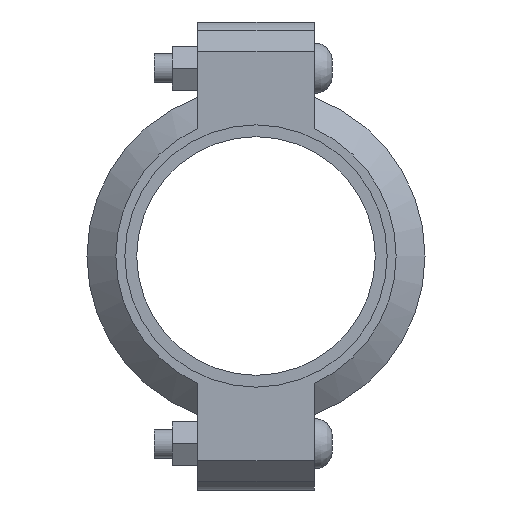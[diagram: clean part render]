
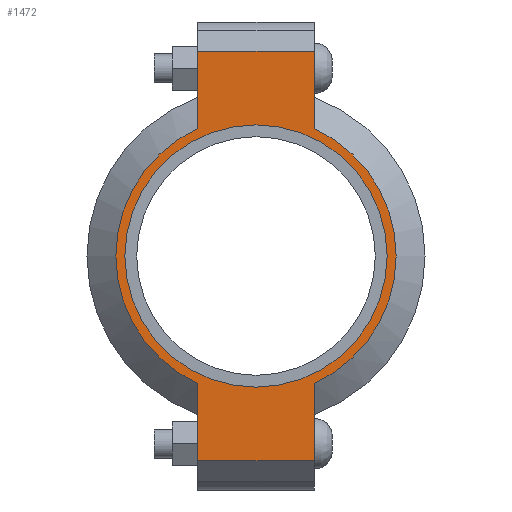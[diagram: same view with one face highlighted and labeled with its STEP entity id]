
A CAD part, left-side view. The second image highlights one B-rep face of the part: STEP entity #1472.
In plain terms, the highlighted planar face has unit normal (-1, 0, 0) as drawn and (0, 0, 1) by its records, which use the part's own axes.
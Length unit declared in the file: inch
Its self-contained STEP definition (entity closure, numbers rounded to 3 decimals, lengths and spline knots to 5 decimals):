
#152=LINE('',#2535,#243);
#160=LINE('',#2571,#251);
#167=LINE('',#2592,#258);
#176=LINE('',#2624,#267);
#177=LINE('',#2628,#268);
#178=LINE('',#2630,#269);
#243=VECTOR('',#2049,0.3937);
#251=VECTOR('',#2065,0.3937);
#258=VECTOR('',#2084,0.3937);
#267=VECTOR('',#2109,0.3937);
#268=VECTOR('',#2114,0.3937);
#269=VECTOR('',#2115,0.3937);
#321=FACE_BOUND('',#481,.T.);
#385=FACE_OUTER_BOUND('',#480,.T.);
#480=EDGE_LOOP('',(#1207,#1208,#1209,#1210,#1211,#1212,#1213,#1214));
#481=EDGE_LOOP('',(#1215));
#578=CIRCLE('',#1715,2.405);
#579=CIRCLE('',#1716,2.405);
#580=CIRCLE('',#1717,2.25);
#683=VERTEX_POINT('',#2532);
#684=VERTEX_POINT('',#2534);
#695=VERTEX_POINT('',#2566);
#696=VERTEX_POINT('',#2570);
#703=VERTEX_POINT('',#2589);
#704=VERTEX_POINT('',#2591);
#714=VERTEX_POINT('',#2627);
#715=VERTEX_POINT('',#2629);
#716=VERTEX_POINT('',#2632);
#847=EDGE_CURVE('',#684,#683,#152,.T.);
#861=EDGE_CURVE('',#696,#695,#160,.T.);
#871=EDGE_CURVE('',#704,#703,#167,.T.);
#886=EDGE_CURVE('',#696,#683,#176,.T.);
#887=EDGE_CURVE('',#695,#704,#578,.T.);
#888=EDGE_CURVE('',#714,#703,#177,.T.);
#889=EDGE_CURVE('',#714,#715,#178,.T.);
#890=EDGE_CURVE('',#715,#684,#579,.T.);
#891=EDGE_CURVE('',#716,#716,#580,.T.);
#1207=ORIENTED_EDGE('',*,*,#886,.F.);
#1208=ORIENTED_EDGE('',*,*,#861,.T.);
#1209=ORIENTED_EDGE('',*,*,#887,.T.);
#1210=ORIENTED_EDGE('',*,*,#871,.T.);
#1211=ORIENTED_EDGE('',*,*,#888,.F.);
#1212=ORIENTED_EDGE('',*,*,#889,.T.);
#1213=ORIENTED_EDGE('',*,*,#890,.T.);
#1214=ORIENTED_EDGE('',*,*,#847,.T.);
#1215=ORIENTED_EDGE('',*,*,#891,.T.);
#1326=PLANE('',#1714);
#1472=ADVANCED_FACE('',(#385,#321),#1326,.T.);
#1714=AXIS2_PLACEMENT_3D('',#2625,#2110,#2111);
#1715=AXIS2_PLACEMENT_3D('',#2626,#2112,#2113);
#1716=AXIS2_PLACEMENT_3D('',#2631,#2116,#2117);
#1717=AXIS2_PLACEMENT_3D('',#2633,#2118,#2119);
#2049=DIRECTION('',(-1.,0.,0.));
#2065=DIRECTION('',(1.,0.,0.));
#2084=DIRECTION('',(1.,0.,0.));
#2109=DIRECTION('',(0.,1.,0.));
#2110=DIRECTION('center_axis',(0.,0.,1.));
#2111=DIRECTION('ref_axis',(1.,0.,0.));
#2112=DIRECTION('center_axis',(0.,0.,1.));
#2113=DIRECTION('ref_axis',(-1.,0.,0.));
#2114=DIRECTION('',(0.,-1.,0.));
#2115=DIRECTION('',(-1.,0.,0.));
#2116=DIRECTION('center_axis',(0.,0.,1.));
#2117=DIRECTION('ref_axis',(-1.,0.,0.));
#2118=DIRECTION('center_axis',(0.,0.,-1.));
#2119=DIRECTION('ref_axis',(-1.,0.,0.));
#2532=CARTESIAN_POINT('',(-3.515,1.,1.065));
#2534=CARTESIAN_POINT('',(-2.18724,1.,1.065));
#2535=CARTESIAN_POINT('',(-4.015,1.,1.065));
#2566=CARTESIAN_POINT('',(-2.18724,-1.,1.065));
#2570=CARTESIAN_POINT('',(-3.515,-1.,1.065));
#2571=CARTESIAN_POINT('',(4.015,-1.,1.065));
#2589=CARTESIAN_POINT('',(3.515,-1.,1.065));
#2591=CARTESIAN_POINT('',(2.18724,-1.,1.065));
#2592=CARTESIAN_POINT('',(4.015,-1.,1.065));
#2624=CARTESIAN_POINT('',(-3.515,0.5,1.065));
#2625=CARTESIAN_POINT('Origin',(0.,0.,1.065));
#2626=CARTESIAN_POINT('Origin',(0.,0.,1.065));
#2627=CARTESIAN_POINT('',(3.515,1.,1.065));
#2628=CARTESIAN_POINT('',(3.515,-0.5,1.065));
#2629=CARTESIAN_POINT('',(2.18724,1.,1.065));
#2630=CARTESIAN_POINT('',(-4.015,1.,1.065));
#2631=CARTESIAN_POINT('Origin',(0.,0.,1.065));
#2632=CARTESIAN_POINT('',(2.25,0.,1.065));
#2633=CARTESIAN_POINT('Origin',(0.,0.,1.065));
